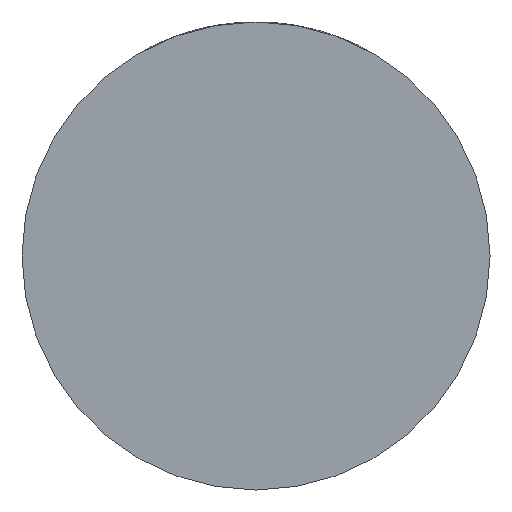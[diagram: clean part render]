
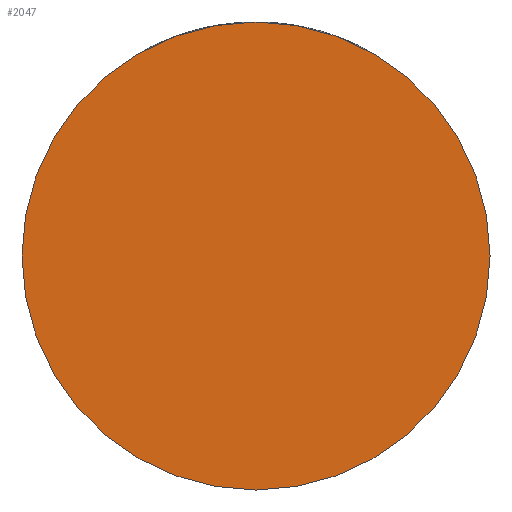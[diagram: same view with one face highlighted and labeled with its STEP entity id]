
A CAD part, front view. The second image highlights one B-rep face of the part: STEP entity #2047.
In plain terms, the highlighted planar face has unit normal (0, -1, 0).
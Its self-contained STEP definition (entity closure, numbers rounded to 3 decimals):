
#10 = AXIS2_PLACEMENT_3D ( 'NONE', #208, #851, #2275 ) ;
#208 = CARTESIAN_POINT ( 'NONE',  ( 0., -42., 0. ) ) ;
#442 = CARTESIAN_POINT ( 'NONE',  ( 0., -42., 0. ) ) ;
#543 = DIRECTION ( 'NONE',  ( 0., -1., 0. ) ) ;
#662 = ORIENTED_EDGE ( 'NONE', *, *, #2299, .T. ) ;
#851 = DIRECTION ( 'NONE',  ( 0., -1., 0. ) ) ;
#1038 = CIRCLE ( 'NONE', #1411, 49. ) ;
#1174 = EDGE_CURVE ( 'NONE', #1413, #1767, #2890, .T. ) ;
#1283 = ORIENTED_EDGE ( 'NONE', *, *, #1174, .T. ) ;
#1411 = AXIS2_PLACEMENT_3D ( 'NONE', #442, #1852, #3260 ) ;
#1413 = VERTEX_POINT ( 'NONE', #3421 ) ;
#1767 = VERTEX_POINT ( 'NONE', #3579 ) ;
#1852 = DIRECTION ( 'NONE',  ( 0., -1., 0. ) ) ;
#1946 = PLANE ( 'NONE',  #10 ) ;
#2047 = ADVANCED_FACE ( 'NONE', ( #3679 ), #1946, .T. ) ;
#2082 = AXIS2_PLACEMENT_3D ( 'NONE', #2285, #543, #4402 ) ;
#2125 = EDGE_LOOP ( 'NONE', ( #662, #1283 ) ) ;
#2275 = DIRECTION ( 'NONE',  ( 1., 0., 0. ) ) ;
#2285 = CARTESIAN_POINT ( 'NONE',  ( 0., -42., 0. ) ) ;
#2299 = EDGE_CURVE ( 'NONE', #1767, #1413, #1038, .T. ) ;
#2890 = CIRCLE ( 'NONE', #2082, 49. ) ;
#3260 = DIRECTION ( 'NONE',  ( 1., 0., 0. ) ) ;
#3421 = CARTESIAN_POINT ( 'NONE',  ( 49., -42., 0. ) ) ;
#3579 = CARTESIAN_POINT ( 'NONE',  ( -49., -42., 0. ) ) ;
#3679 = FACE_OUTER_BOUND ( 'NONE', #2125, .T. ) ;
#4402 = DIRECTION ( 'NONE',  ( 1., 0., 0. ) ) ;
